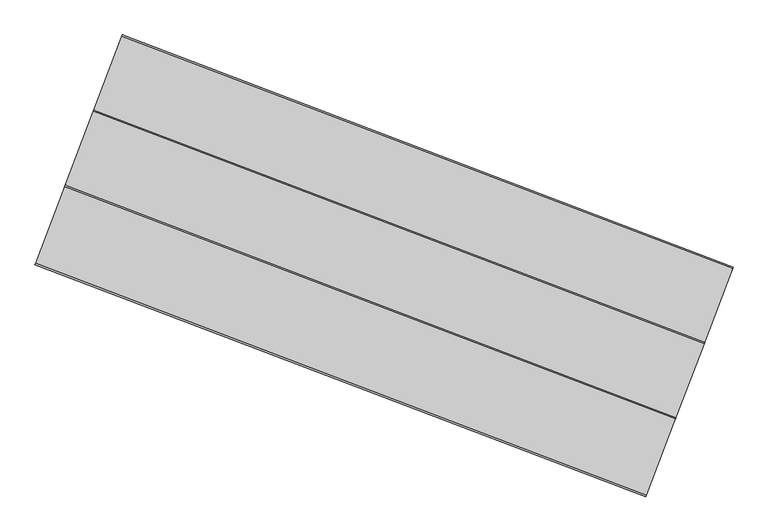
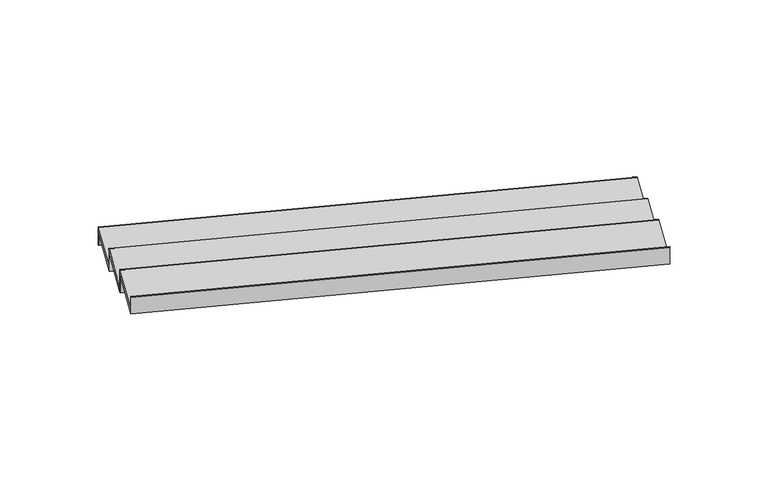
"""IFC4 building model written with IfcOpenShell, lengths in millimetres: stair flight geometry, Wood Steps with 50 mm Tread 20 mm Nosing 13 mm Riser."""

from ifc_helpers import new_model, si_unit, point, frame, frame_2d, origin, place, context, project, spatial, polyline, circle_curve, trimmed, segment, composite_curve, outline, extrude, source, transform, mapped, element, save


def stair_flight_ddca19d5(model_context):
    return source(origin(), model_context, "Body", "SweptSolid", [
        extrude(outline(composite_curve([segment(polyline([(0.0, -598.410772), (0.0, 0.0), (50.0, 0.0), (50.0, -598.410772), (20.0, -598.410772)]), True, "CONTINUOUS"), segment(trimmed(circle_curve(frame_2d((10.0, -598.410772)), 10.0), [point((20.0, -598.410772))], [point((0.0, -598.410772))], False, "CARTESIAN"), True, "CONTINUOUS")], self_intersect=False)), frame((965819.6610197, -23778.169402, 8579.2941176), z_axis=(-0.9347967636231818, 0.35518306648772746, 0.0), x_axis=(0.0, 0.0, -1.0)), (0.0, 0.0, 1.0), 4775.70095),
        extrude(outline(polyline([(961559.9049817, -21543.5617682), (961564.34477, -21531.8768086), (966028.6545621, -23228.1249167), (966024.2147737, -23239.8098762), (961559.9049817, -21543.5617682)])), frame((0.0, 0.0, 8400.0), z_axis=(0.0, 0.0, 1.0), x_axis=(1.0, 0.0, 0.0)), (0.0, 0.0, 1.0), 129.2941176),
        extrude(outline(polyline([(961350.9114393, -22093.6062535), (961355.3512277, -22081.921294), (965819.6610197, -23778.169402), (965815.2212314, -23789.8543615), (961350.9114393, -22093.6062535)])), frame((0.0, 0.0, 8529.2941176), z_axis=(0.0, 0.0, 1.0), x_axis=(1.0, 0.0, 0.0)), (0.0, 0.0, 1.0), 179.2941176),
        extrude(outline(composite_curve([segment(polyline([(0.0, -598.4107719), (0.0, 0.0), (50.0, 0.0), (50.0, -598.4107719), (20.0, -598.4107719)]), True, "CONTINUOUS"), segment(trimmed(circle_curve(frame_2d((10.0, -598.4107719)), 10.0), [point((20.0, -598.4107719))], [point((0.0, -598.4107719))], False, "CARTESIAN"), True, "CONTINUOUS")], self_intersect=False)), frame((965610.6674774, -24328.2138873, 8758.5882353), z_axis=(-0.9347967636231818, 0.35518306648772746, 0.0), x_axis=(0.0, 0.0, -1.0)), (0.0, 0.0, 1.0), 4775.70095),
        extrude(outline(polyline([(961141.917897, -22643.6507388), (961146.3576853, -22631.9657793), (965610.6674774, -24328.2138873), (965606.2276891, -24339.8988469), (961141.917897, -22643.6507388)])), frame((0.0, 0.0, 8708.5882353), z_axis=(0.0, 0.0, 1.0), x_axis=(1.0, 0.0, 0.0)), (0.0, 0.0, 1.0), 179.2941176),
        extrude(outline(polyline([(960932.9243546, -23193.6952242), (960937.364143, -23182.0102646), (965401.673935, -24878.2583727), (965397.2341467, -24889.9433322), (960932.9243546, -23193.6952242)])), frame((0.0, 0.0, 8887.8823529), z_axis=(0.0, 0.0, 1.0), x_axis=(1.0, 0.0, 0.0)), (0.0, 0.0, 1.0), 179.2941176),
        extrude(outline(composite_curve([segment(polyline([(0.0, -598.410772), (0.0, 0.0), (50.0, 0.0), (50.0, -598.410772), (20.0, -598.410772)]), True, "CONTINUOUS"), segment(trimmed(circle_curve(frame_2d((10.0, -598.410772)), 10.0), [point((20.0, -598.410772))], [point((0.0, -598.410772))], False, "CARTESIAN"), True, "CONTINUOUS")], self_intersect=False)), frame((965401.673935, -24878.2583727, 8937.8823529), z_axis=(-0.9347967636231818, 0.35518306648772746, 0.0), x_axis=(0.0, 0.0, -1.0)), (0.0, 0.0, 1.0), 4775.70095),
    ])


if __name__ == "__main__":
    model = new_model("IFC4")
    model_context = context("Model", 3, world=origin())
    ifc_project = project(units=[si_unit("LENGTHUNIT", "METRE", prefix="MILLI")], contexts=[model_context])
    site = spatial("IfcSite", under=ifc_project)
    building = spatial("IfcBuilding", under=site)
    placement = place(None, origin())
    stair_flight_shape = stair_flight_ddca19d5(model_context)
    element("IfcStairFlight", 1, ObjectType="Wood Steps with 50 mm Tread 20 mm Nosing 13 mm Riser", at=placement, inside=building, context=model_context, shape_type="MappedRepresentation", body=[
        mapped(stair_flight_shape, transform((0.0, 0.0, 0.0), x_axis=(1.0, 0.0, 0.0), y_axis=(0.0, 1.0, 0.0), z_axis=(0.0, 0.0, 1.0))),
    ])
    save(model, "model.ifc")
